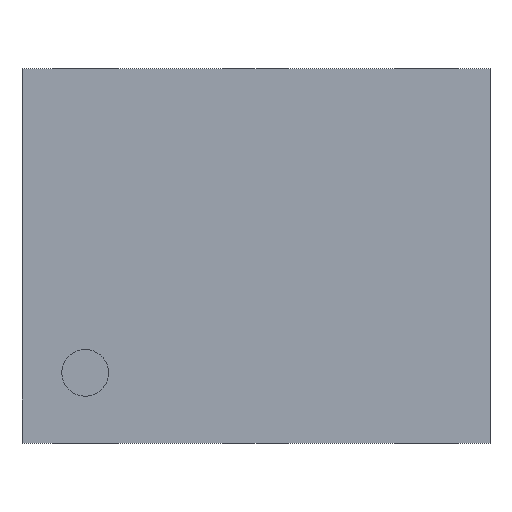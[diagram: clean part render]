
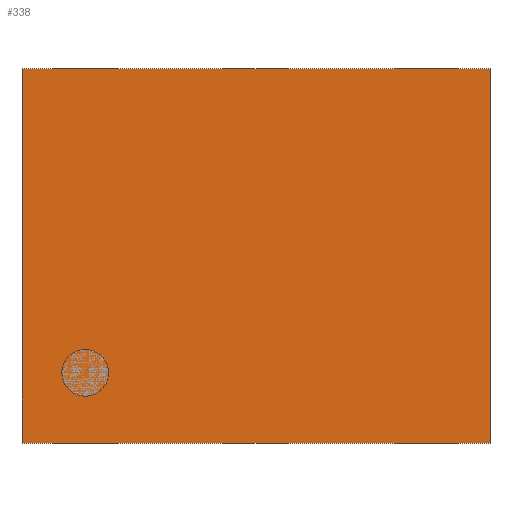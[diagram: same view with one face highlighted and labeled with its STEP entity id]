
A CAD part, top view. The second image highlights one B-rep face of the part: STEP entity #338.
In plain terms, the highlighted planar face has unit normal (0, 0, 1).
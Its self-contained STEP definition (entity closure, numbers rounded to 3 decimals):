
#24 = VERTEX_POINT('',#25);
#25 = CARTESIAN_POINT('',(-1.,-0.8,0.75));
#32 = PLANE('',#33);
#33 = AXIS2_PLACEMENT_3D('',#34,#35,#36);
#34 = CARTESIAN_POINT('',(-1.,-0.8,0.035));
#35 = DIRECTION('',(1.,0.,-0.));
#36 = DIRECTION('',(0.,0.,1.));
#44 = PLANE('',#45);
#45 = AXIS2_PLACEMENT_3D('',#46,#47,#48);
#46 = CARTESIAN_POINT('',(-1.,-0.8,0.035));
#47 = DIRECTION('',(-0.,1.,0.));
#48 = DIRECTION('',(0.,0.,1.));
#85 = VERTEX_POINT('',#86);
#86 = CARTESIAN_POINT('',(-1.,0.8,0.75));
#100 = PLANE('',#101);
#101 = AXIS2_PLACEMENT_3D('',#102,#103,#104);
#102 = CARTESIAN_POINT('',(-1.,0.8,0.035));
#103 = DIRECTION('',(-0.,1.,0.));
#104 = DIRECTION('',(0.,0.,1.));
#112 = EDGE_CURVE('',#24,#85,#113,.T.);
#113 = SURFACE_CURVE('',#114,(#118,#125),.PCURVE_S1.);
#114 = LINE('',#115,#116);
#115 = CARTESIAN_POINT('',(-1.,-0.8,0.75));
#116 = VECTOR('',#117,1.);
#117 = DIRECTION('',(-0.,1.,0.));
#118 = PCURVE('',#32,#119);
#119 = DEFINITIONAL_REPRESENTATION('',(#120),#124);
#120 = LINE('',#121,#122);
#121 = CARTESIAN_POINT('',(0.715,0.));
#122 = VECTOR('',#123,1.);
#123 = DIRECTION('',(0.,-1.));
#124 = ( GEOMETRIC_REPRESENTATION_CONTEXT(2) 
PARAMETRIC_REPRESENTATION_CONTEXT() REPRESENTATION_CONTEXT('2D SPACE',''
  ) );
#125 = PCURVE('',#126,#131);
#126 = PLANE('',#127);
#127 = AXIS2_PLACEMENT_3D('',#128,#129,#130);
#128 = CARTESIAN_POINT('',(-1.,-0.8,0.75));
#129 = DIRECTION('',(0.,0.,1.));
#130 = DIRECTION('',(1.,0.,-0.));
#131 = DEFINITIONAL_REPRESENTATION('',(#132),#136);
#132 = LINE('',#133,#134);
#133 = CARTESIAN_POINT('',(0.,0.));
#134 = VECTOR('',#135,1.);
#135 = DIRECTION('',(0.,1.));
#136 = ( GEOMETRIC_REPRESENTATION_CONTEXT(2) 
PARAMETRIC_REPRESENTATION_CONTEXT() REPRESENTATION_CONTEXT('2D SPACE',''
  ) );
#144 = VERTEX_POINT('',#145);
#145 = CARTESIAN_POINT('',(1.,-0.8,0.75));
#152 = PLANE('',#153);
#153 = AXIS2_PLACEMENT_3D('',#154,#155,#156);
#154 = CARTESIAN_POINT('',(1.,-0.8,0.035));
#155 = DIRECTION('',(1.,0.,-0.));
#156 = DIRECTION('',(0.,0.,1.));
#195 = VERTEX_POINT('',#196);
#196 = CARTESIAN_POINT('',(1.,0.8,0.75));
#217 = EDGE_CURVE('',#144,#195,#218,.T.);
#218 = SURFACE_CURVE('',#219,(#223,#230),.PCURVE_S1.);
#219 = LINE('',#220,#221);
#220 = CARTESIAN_POINT('',(1.,-0.8,0.75));
#221 = VECTOR('',#222,1.);
#222 = DIRECTION('',(-0.,1.,0.));
#223 = PCURVE('',#152,#224);
#224 = DEFINITIONAL_REPRESENTATION('',(#225),#229);
#225 = LINE('',#226,#227);
#226 = CARTESIAN_POINT('',(0.715,0.));
#227 = VECTOR('',#228,1.);
#228 = DIRECTION('',(0.,-1.));
#229 = ( GEOMETRIC_REPRESENTATION_CONTEXT(2) 
PARAMETRIC_REPRESENTATION_CONTEXT() REPRESENTATION_CONTEXT('2D SPACE',''
  ) );
#230 = PCURVE('',#126,#231);
#231 = DEFINITIONAL_REPRESENTATION('',(#232),#236);
#232 = LINE('',#233,#234);
#233 = CARTESIAN_POINT('',(2.,0.));
#234 = VECTOR('',#235,1.);
#235 = DIRECTION('',(0.,1.));
#236 = ( GEOMETRIC_REPRESENTATION_CONTEXT(2) 
PARAMETRIC_REPRESENTATION_CONTEXT() REPRESENTATION_CONTEXT('2D SPACE',''
  ) );
#263 = EDGE_CURVE('',#24,#144,#264,.T.);
#264 = SURFACE_CURVE('',#265,(#269,#276),.PCURVE_S1.);
#265 = LINE('',#266,#267);
#266 = CARTESIAN_POINT('',(-1.,-0.8,0.75));
#267 = VECTOR('',#268,1.);
#268 = DIRECTION('',(1.,0.,-0.));
#269 = PCURVE('',#44,#270);
#270 = DEFINITIONAL_REPRESENTATION('',(#271),#275);
#271 = LINE('',#272,#273);
#272 = CARTESIAN_POINT('',(0.715,0.));
#273 = VECTOR('',#274,1.);
#274 = DIRECTION('',(0.,1.));
#275 = ( GEOMETRIC_REPRESENTATION_CONTEXT(2) 
PARAMETRIC_REPRESENTATION_CONTEXT() REPRESENTATION_CONTEXT('2D SPACE',''
  ) );
#276 = PCURVE('',#126,#277);
#277 = DEFINITIONAL_REPRESENTATION('',(#278),#282);
#278 = LINE('',#279,#280);
#279 = CARTESIAN_POINT('',(0.,0.));
#280 = VECTOR('',#281,1.);
#281 = DIRECTION('',(1.,0.));
#282 = ( GEOMETRIC_REPRESENTATION_CONTEXT(2) 
PARAMETRIC_REPRESENTATION_CONTEXT() REPRESENTATION_CONTEXT('2D SPACE',''
  ) );
#310 = EDGE_CURVE('',#85,#195,#311,.T.);
#311 = SURFACE_CURVE('',#312,(#316,#323),.PCURVE_S1.);
#312 = LINE('',#313,#314);
#313 = CARTESIAN_POINT('',(-1.,0.8,0.75));
#314 = VECTOR('',#315,1.);
#315 = DIRECTION('',(1.,0.,-0.));
#316 = PCURVE('',#100,#317);
#317 = DEFINITIONAL_REPRESENTATION('',(#318),#322);
#318 = LINE('',#319,#320);
#319 = CARTESIAN_POINT('',(0.715,0.));
#320 = VECTOR('',#321,1.);
#321 = DIRECTION('',(0.,1.));
#322 = ( GEOMETRIC_REPRESENTATION_CONTEXT(2) 
PARAMETRIC_REPRESENTATION_CONTEXT() REPRESENTATION_CONTEXT('2D SPACE',''
  ) );
#323 = PCURVE('',#126,#324);
#324 = DEFINITIONAL_REPRESENTATION('',(#325),#329);
#325 = LINE('',#326,#327);
#326 = CARTESIAN_POINT('',(0.,1.6));
#327 = VECTOR('',#328,1.);
#328 = DIRECTION('',(1.,0.));
#329 = ( GEOMETRIC_REPRESENTATION_CONTEXT(2) 
PARAMETRIC_REPRESENTATION_CONTEXT() REPRESENTATION_CONTEXT('2D SPACE',''
  ) );
#338 = ADVANCED_FACE('',(#339),#126,.T.);
#339 = FACE_BOUND('',#340,.T.);
#340 = EDGE_LOOP('',(#341,#342,#343,#344));
#341 = ORIENTED_EDGE('',*,*,#112,.F.);
#342 = ORIENTED_EDGE('',*,*,#263,.T.);
#343 = ORIENTED_EDGE('',*,*,#217,.T.);
#344 = ORIENTED_EDGE('',*,*,#310,.F.);
